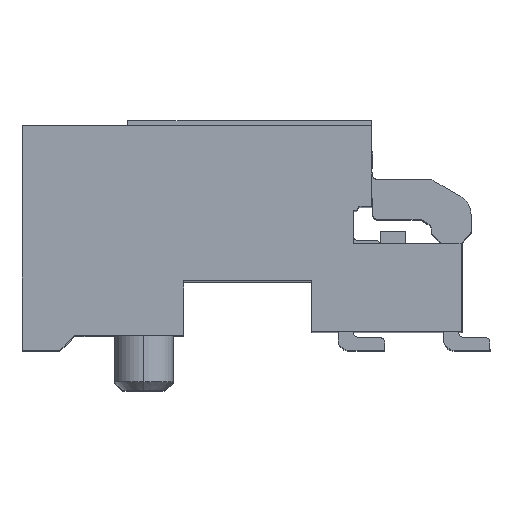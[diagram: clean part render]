
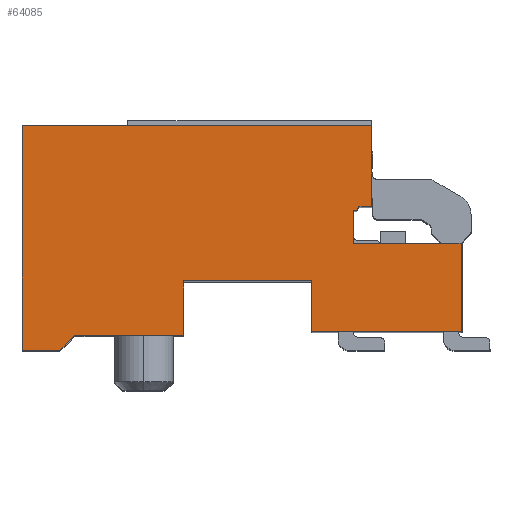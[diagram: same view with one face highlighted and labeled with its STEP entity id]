
A CAD part, top view. The second image highlights one B-rep face of the part: STEP entity #64085.
In plain terms, the highlighted planar face has unit normal (0, 0, 1).
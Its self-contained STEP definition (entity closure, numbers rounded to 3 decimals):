
#108 = DIRECTION ( 'NONE',  ( 0., -1., 0. ) ) ;
#986 = CARTESIAN_POINT ( 'NONE',  ( 2.57, 2.795, 0. ) ) ;
#2902 = CARTESIAN_POINT ( 'NONE',  ( -4.5, -2.325, 0. ) ) ;
#2938 = EDGE_CURVE ( 'NONE', #48271, #7899, #29229, .T. ) ;
#3741 = ORIENTED_EDGE ( 'NONE', *, *, #44929, .T. ) ;
#4101 = EDGE_CURVE ( 'NONE', #16364, #20672, #42523, .T. ) ;
#4255 = VERTEX_POINT ( 'NONE', #54533 ) ;
#4385 = LINE ( 'NONE', #5517, #32286 ) ;
#5347 = VECTOR ( 'NONE', #59133, 1000. ) ;
#5517 = CARTESIAN_POINT ( 'NONE',  ( 5.75, -2.325, 0. ) ) ;
#5914 = EDGE_CURVE ( 'NONE', #4255, #56436, #11625, .T. ) ;
#5977 = LINE ( 'NONE', #986, #48758 ) ;
#6670 = VECTOR ( 'NONE', #47126, 1000. ) ;
#7899 = VERTEX_POINT ( 'NONE', #41032 ) ;
#8009 = CARTESIAN_POINT ( 'NONE',  ( 5.75, -2.675, 0. ) ) ;
#9296 = ORIENTED_EDGE ( 'NONE', *, *, #14287, .F. ) ;
#9587 = VECTOR ( 'NONE', #48789, 1000. ) ;
#9617 = CARTESIAN_POINT ( 'NONE',  ( 5.75, -0.125, 0. ) ) ;
#9733 = CARTESIAN_POINT ( 'NONE',  ( 2.13, 2.675, 0. ) ) ;
#10631 = DIRECTION ( 'NONE',  ( -0.707, -0.707, 0. ) ) ;
#11045 = VECTOR ( 'NONE', #58482, 1000. ) ;
#11111 = DIRECTION ( 'NONE',  ( 1., 0., 0. ) ) ;
#11625 = LINE ( 'NONE', #61823, #70993 ) ;
#13306 = LINE ( 'NONE', #16480, #24677 ) ;
#13511 = PLANE ( 'NONE',  #43329 ) ;
#14287 = EDGE_CURVE ( 'NONE', #17778, #45345, #69803, .T. ) ;
#14989 = EDGE_CURVE ( 'NONE', #20672, #34596, #5977, .T. ) ;
#15018 = LINE ( 'NONE', #52954, #42970 ) ;
#15420 = CARTESIAN_POINT ( 'NONE',  ( 2.27, 0.75, 0. ) ) ;
#15867 = EDGE_CURVE ( 'NONE', #34755, #17778, #16773, .T. ) ;
#16364 = VERTEX_POINT ( 'NONE', #19804 ) ;
#16401 = ORIENTED_EDGE ( 'NONE', *, *, #55475, .T. ) ;
#16480 = CARTESIAN_POINT ( 'NONE',  ( -4.7, 0.65, 0. ) ) ;
#16773 = LINE ( 'NONE', #9617, #29851 ) ;
#17339 = EDGE_CURVE ( 'NONE', #46615, #46782, #47118, .T. ) ;
#17618 = ORIENTED_EDGE ( 'NONE', *, *, #57361, .F. ) ;
#17778 = VERTEX_POINT ( 'NONE', #25375 ) ;
#17902 = EDGE_CURVE ( 'NONE', #34755, #33822, #22702, .T. ) ;
#18841 = EDGE_CURVE ( 'NONE', #16364, #7899, #19059, .T. ) ;
#18968 = DIRECTION ( 'NONE',  ( -1., 0., 0. ) ) ;
#19039 = VERTEX_POINT ( 'NONE', #54480 ) ;
#19059 = LINE ( 'NONE', #58167, #61829 ) ;
#19680 = ORIENTED_EDGE ( 'NONE', *, *, #17339, .F. ) ;
#19804 = CARTESIAN_POINT ( 'NONE',  ( -5.75, 2.675, 0. ) ) ;
#20672 = VERTEX_POINT ( 'NONE', #57739 ) ;
#21894 = VERTEX_POINT ( 'NONE', #2902 ) ;
#21897 = CARTESIAN_POINT ( 'NONE',  ( -4.5, -2.325, 0. ) ) ;
#21976 = LINE ( 'NONE', #70313, #5347 ) ;
#22484 = CARTESIAN_POINT ( 'NONE',  ( 1.15, -1.025, 0. ) ) ;
#22702 = LINE ( 'NONE', #9733, #9587 ) ;
#23799 = EDGE_CURVE ( 'NONE', #54407, #19039, #15018, .T. ) ;
#24677 = VECTOR ( 'NONE', #49954, 1000. ) ;
#24753 = DIRECTION ( 'NONE',  ( 0., 0., -1. ) ) ;
#24882 = EDGE_LOOP ( 'NONE', ( #50072, #34801, #17618, #9296, #34539, #55098, #3741, #19680, #55331, #66382, #53807, #25820, #52416, #31603, #16401, #69912 ) ) ;
#25306 = VECTOR ( 'NONE', #108, 1000. ) ;
#25375 = CARTESIAN_POINT ( 'NONE',  ( 4.7, -0.125, 0. ) ) ;
#25820 = ORIENTED_EDGE ( 'NONE', *, *, #18841, .T. ) ;
#26476 = EDGE_CURVE ( 'NONE', #21894, #48271, #27778, .T. ) ;
#27778 = LINE ( 'NONE', #21897, #40878 ) ;
#28378 = DIRECTION ( 'NONE',  ( 0., -1., 0. ) ) ;
#29229 = LINE ( 'NONE', #8009, #72050 ) ;
#29851 = VECTOR ( 'NONE', #48672, 1000. ) ;
#31242 = DIRECTION ( 'NONE',  ( -0.5, -0.866, 0. ) ) ;
#31603 = ORIENTED_EDGE ( 'NONE', *, *, #26476, .F. ) ;
#32286 = VECTOR ( 'NONE', #11111, 1000. ) ;
#33822 = VERTEX_POINT ( 'NONE', #69490 ) ;
#34539 = ORIENTED_EDGE ( 'NONE', *, *, #15867, .F. ) ;
#34596 = VERTEX_POINT ( 'NONE', #55297 ) ;
#34619 = DIRECTION ( 'NONE',  ( 0., -1., 0. ) ) ;
#34755 = VERTEX_POINT ( 'NONE', #67690 ) ;
#34801 = ORIENTED_EDGE ( 'NONE', *, *, #23799, .T. ) ;
#36212 = CARTESIAN_POINT ( 'NONE',  ( 0., 2.675, 0. ) ) ;
#38352 = EDGE_CURVE ( 'NONE', #4255, #54407, #21976, .T. ) ;
#38623 = VECTOR ( 'NONE', #18968, 1000. ) ;
#40878 = VECTOR ( 'NONE', #10631, 1000. ) ;
#41032 = CARTESIAN_POINT ( 'NONE',  ( -5.75, -2.675, 0. ) ) ;
#41503 = CARTESIAN_POINT ( 'NONE',  ( 2.27, 0.75, 0. ) ) ;
#41712 = DIRECTION ( 'NONE',  ( 0., -1., 0. ) ) ;
#42523 = LINE ( 'NONE', #36212, #11045 ) ;
#42970 = VECTOR ( 'NONE', #41712, 1000. ) ;
#43329 = AXIS2_PLACEMENT_3D ( 'NONE', #46941, #24753, #63792 ) ;
#44142 = FACE_OUTER_BOUND ( 'NONE', #24882, .T. ) ;
#44929 = EDGE_CURVE ( 'NONE', #33822, #46782, #13306, .T. ) ;
#45345 = VERTEX_POINT ( 'NONE', #70577 ) ;
#46615 = VERTEX_POINT ( 'NONE', #15420 ) ;
#46782 = VERTEX_POINT ( 'NONE', #50338 ) ;
#46941 = CARTESIAN_POINT ( 'NONE',  ( 5.75, 2.675, 0. ) ) ;
#47061 = DIRECTION ( 'NONE',  ( -1., 0., 0. ) ) ;
#47118 = LINE ( 'NONE', #59349, #58492 ) ;
#47126 = DIRECTION ( 'NONE',  ( -1., 0., 0. ) ) ;
#47172 = DIRECTION ( 'NONE',  ( 0., -1., 0. ) ) ;
#48271 = VERTEX_POINT ( 'NONE', #59407 ) ;
#48672 = DIRECTION ( 'NONE',  ( 1., 0., 0. ) ) ;
#48730 = EDGE_CURVE ( 'NONE', #34596, #46615, #51225, .T. ) ;
#48758 = VECTOR ( 'NONE', #34619, 1000. ) ;
#48789 = DIRECTION ( 'NONE',  ( 0., 1., 0. ) ) ;
#49954 = DIRECTION ( 'NONE',  ( 1., 0., 0. ) ) ;
#50072 = ORIENTED_EDGE ( 'NONE', *, *, #38352, .T. ) ;
#50338 = CARTESIAN_POINT ( 'NONE',  ( 2.212, 0.65, 0. ) ) ;
#51225 = LINE ( 'NONE', #41503, #6670 ) ;
#52416 = ORIENTED_EDGE ( 'NONE', *, *, #2938, .F. ) ;
#52954 = CARTESIAN_POINT ( 'NONE',  ( 1.15, -1.025, 0. ) ) ;
#53807 = ORIENTED_EDGE ( 'NONE', *, *, #4101, .F. ) ;
#54407 = VERTEX_POINT ( 'NONE', #22484 ) ;
#54480 = CARTESIAN_POINT ( 'NONE',  ( 1.15, -2.225, 0. ) ) ;
#54533 = CARTESIAN_POINT ( 'NONE',  ( -1.9, -1.025, 0. ) ) ;
#54713 = CARTESIAN_POINT ( 'NONE',  ( -1.9, -2.325, 0. ) ) ;
#55098 = ORIENTED_EDGE ( 'NONE', *, *, #17902, .T. ) ;
#55256 = LINE ( 'NONE', #63372, #38623 ) ;
#55297 = CARTESIAN_POINT ( 'NONE',  ( 2.57, 0.75, 0. ) ) ;
#55331 = ORIENTED_EDGE ( 'NONE', *, *, #48730, .F. ) ;
#55475 = EDGE_CURVE ( 'NONE', #21894, #56436, #4385, .T. ) ;
#56436 = VERTEX_POINT ( 'NONE', #54713 ) ;
#57361 = EDGE_CURVE ( 'NONE', #45345, #19039, #55256, .T. ) ;
#57739 = CARTESIAN_POINT ( 'NONE',  ( 2.57, 2.675, 0. ) ) ;
#58167 = CARTESIAN_POINT ( 'NONE',  ( -5.75, 2.675, 0. ) ) ;
#58482 = DIRECTION ( 'NONE',  ( 1., 0., 0. ) ) ;
#58492 = VECTOR ( 'NONE', #31242, 1000. ) ;
#59133 = DIRECTION ( 'NONE',  ( 1., 0., 0. ) ) ;
#59349 = CARTESIAN_POINT ( 'NONE',  ( 2.27, 0.75, 0. ) ) ;
#59407 = CARTESIAN_POINT ( 'NONE',  ( -4.85, -2.675, 0. ) ) ;
#61823 = CARTESIAN_POINT ( 'NONE',  ( -1.9, 2.675, 0. ) ) ;
#61829 = VECTOR ( 'NONE', #47172, 1000. ) ;
#63372 = CARTESIAN_POINT ( 'NONE',  ( 2.43, -2.225, 0. ) ) ;
#63792 = DIRECTION ( 'NONE',  ( -1., 0., 0. ) ) ;
#64085 = ADVANCED_FACE ( 'NONE', ( #44142 ), #13511, .F. ) ;
#66382 = ORIENTED_EDGE ( 'NONE', *, *, #14989, .F. ) ;
#66957 = CARTESIAN_POINT ( 'NONE',  ( 4.7, 2.675, 0. ) ) ;
#67690 = CARTESIAN_POINT ( 'NONE',  ( 2.13, -0.125, 0. ) ) ;
#69490 = CARTESIAN_POINT ( 'NONE',  ( 2.13, 0.65, 0. ) ) ;
#69803 = LINE ( 'NONE', #66957, #25306 ) ;
#69912 = ORIENTED_EDGE ( 'NONE', *, *, #5914, .F. ) ;
#70313 = CARTESIAN_POINT ( 'NONE',  ( 5.75, -1.025, 0. ) ) ;
#70577 = CARTESIAN_POINT ( 'NONE',  ( 4.7, -2.225, 0. ) ) ;
#70993 = VECTOR ( 'NONE', #28378, 1000. ) ;
#72050 = VECTOR ( 'NONE', #47061, 1000. ) ;
